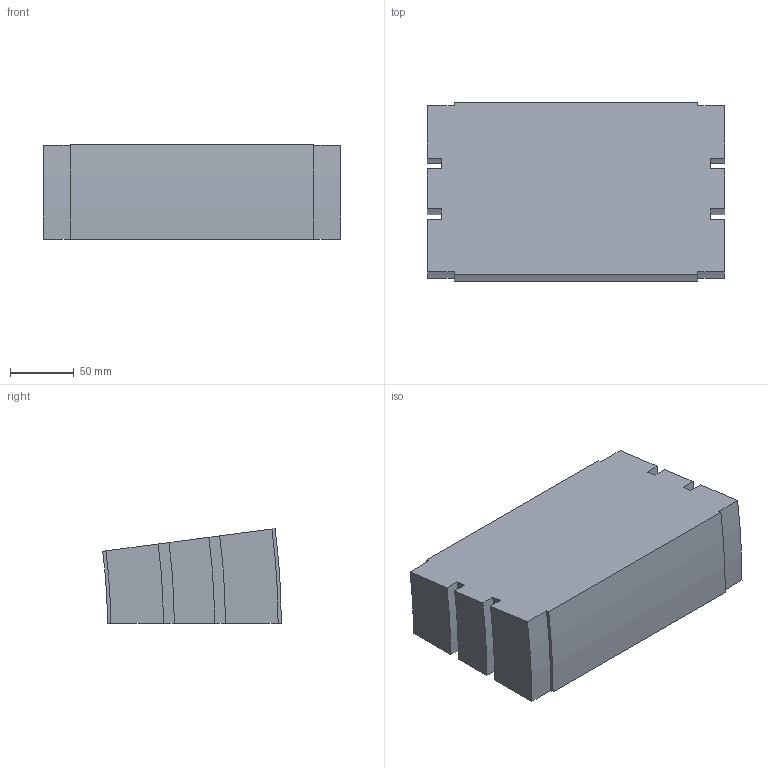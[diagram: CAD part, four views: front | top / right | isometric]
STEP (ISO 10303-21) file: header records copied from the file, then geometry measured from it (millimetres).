
FILE_DESCRIPTION (( 'STEP AP214' ), '1' );
FILE_NAME ('02.150V07.230.N FS-230-MTC-150 Bocht verticaal 7,5°.STEP', '2013-03-29T13:04:40', ( 'Gebruiker' ), ( '' ), 'SwSTEP 2.0', 'SolidWorks 2012', '' );
FILE_SCHEMA (( 'AUTOMOTIVE_DESIGN' ));
Length unit declared in the file: millimetre
Products named in the file (1): 02.150V07.230.N FS-230-MTC-150 Bocht verticaal 7,5°
Bounding box: 232.5 x 139.7 x 74.14 mm (x, y, z)
Volume: 2031301.4 mm3; surface area: 116068.1 mm2
Topology: 1 solids, 1 shells, 30 faces, 84 edges, 56 vertices
Faces by surface type: plane 16, cylinder 14
Entity records: 1010 total; most frequent: DIRECTION 174, CARTESIAN_POINT 171, ORIENTED_EDGE 168, EDGE_CURVE 84, AXIS2_PLACEMENT_3D 59, VERTEX_POINT 56, VECTOR 56, LINE 56
